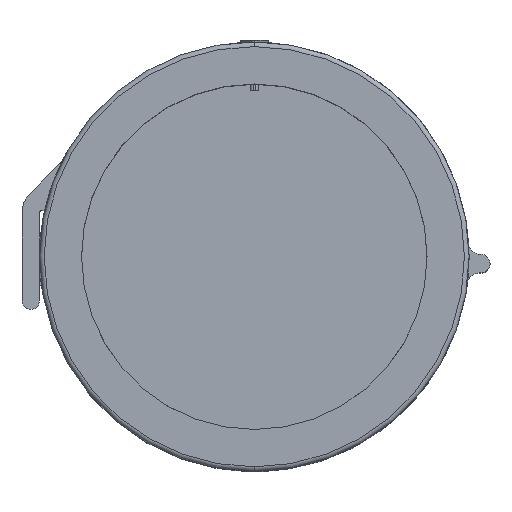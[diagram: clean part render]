
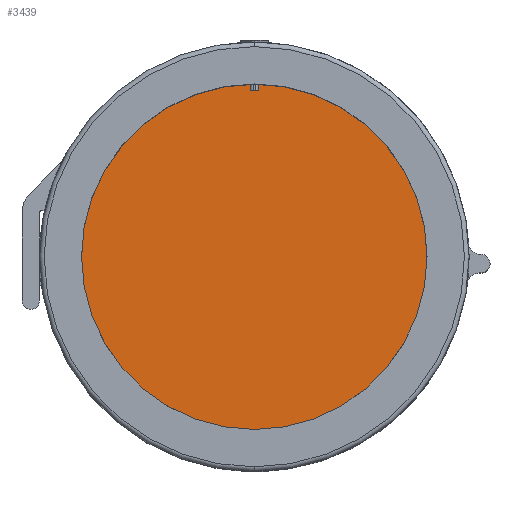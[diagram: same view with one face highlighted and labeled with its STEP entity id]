
A CAD part, top view. The second image highlights one B-rep face of the part: STEP entity #3439.
In plain terms, the highlighted planar face has unit normal (0, 0, 1).
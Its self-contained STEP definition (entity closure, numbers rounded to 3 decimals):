
#217=CARTESIAN_POINT('',(0.,0.,-17.383));
#218=DIRECTION('',(0.,0.,1.));
#219=DIRECTION('',(0.,1.,0.));
#220=AXIS2_PLACEMENT_3D('',#217,#218,#219);
#222=CARTESIAN_POINT('',(0.,0.,-17.383));
#223=DIRECTION('',(0.,0.,-1.));
#224=DIRECTION('',(0.,1.,0.));
#225=AXIS2_PLACEMENT_3D('',#222,#223,#224);
#2704=CARTESIAN_POINT('',(0.,18.796,-17.383));
#2706=VERTEX_POINT('',#2704);
#2708=CARTESIAN_POINT('',(0.,-18.796,-17.383));
#2710=VERTEX_POINT('',#2708);
#3430=CARTESIAN_POINT('',(0.,0.,-17.383));
#3431=DIRECTION('',(0.,0.,-1.));
#3432=DIRECTION('',(0.,-1.,0.));
#3433=AXIS2_PLACEMENT_3D('',#3430,#3431,#3432);
#3434=PLANE('',#3433);
#3435=ORIENTED_EDGE('',*,*,#3423,.F.);
#3436=ORIENTED_EDGE('',*,*,#3412,.T.);
#3437=EDGE_LOOP('',(#3435,#3436));
#3438=FACE_OUTER_BOUND('',#3437,.F.);
#221=CIRCLE('',#220,18.796);
#226=CIRCLE('',#225,18.796);
#3412=EDGE_CURVE('',#2706,#2710,#226,.T.);
#3423=EDGE_CURVE('',#2706,#2710,#221,.T.);
#3439=ADVANCED_FACE('',(#3438),#3434,.F.);
